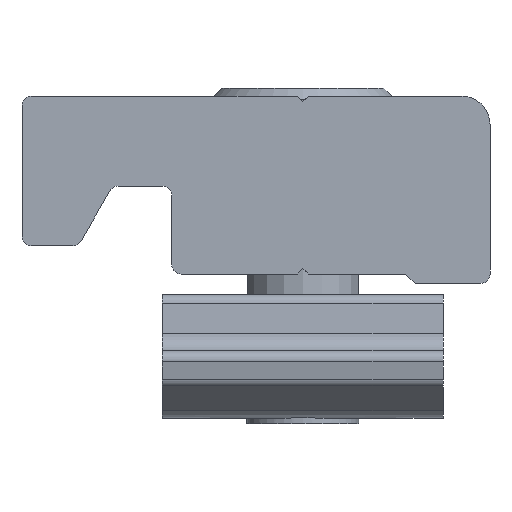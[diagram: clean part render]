
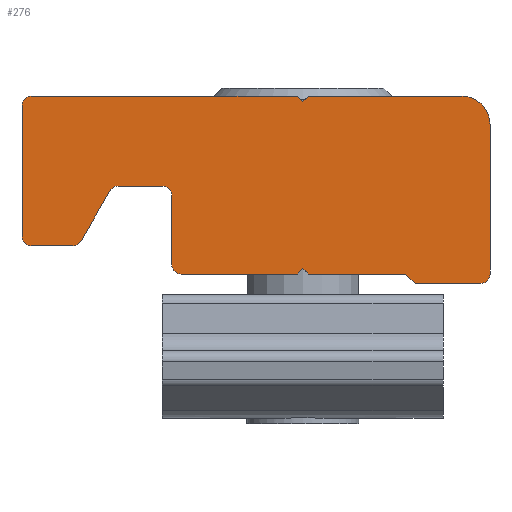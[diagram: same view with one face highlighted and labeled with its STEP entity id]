
A CAD part, front view. The second image highlights one B-rep face of the part: STEP entity #276.
In plain terms, the highlighted planar face has unit normal (0, -1, 0) as drawn and (0, 0, 1) by its records, which use the part's own axes.
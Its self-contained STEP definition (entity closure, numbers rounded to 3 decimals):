
#276=ADVANCED_FACE('',(#528),#529,.T.);
#528=FACE_OUTER_BOUND('',#786,.T.);
#529=PLANE('',#787);
#786=EDGE_LOOP('',(#1275,#1276,#1277,#1278,#1279,#1280,#1281,#1282,#1283,#1284,#1285,#1286,#1287,#1288,#1289,#1290,#1291,#1292,#1293,#1294,#1295,#1296,#1297,#1298));
#787=AXIS2_PLACEMENT_3D('',#1299,#1300,#1301);
#1275=ORIENTED_EDGE('',*,*,#1809,.T.);
#1276=ORIENTED_EDGE('',*,*,#1798,.T.);
#1277=ORIENTED_EDGE('',*,*,#1783,.T.);
#1278=ORIENTED_EDGE('',*,*,#1810,.T.);
#1279=ORIENTED_EDGE('',*,*,#1807,.T.);
#1280=ORIENTED_EDGE('',*,*,#1811,.T.);
#1281=ORIENTED_EDGE('',*,*,#1646,.T.);
#1282=ORIENTED_EDGE('',*,*,#1766,.T.);
#1283=ORIENTED_EDGE('',*,*,#1812,.T.);
#1284=ORIENTED_EDGE('',*,*,#1813,.T.);
#1285=ORIENTED_EDGE('',*,*,#1787,.T.);
#1286=ORIENTED_EDGE('',*,*,#1729,.T.);
#1287=ORIENTED_EDGE('',*,*,#1814,.T.);
#1288=ORIENTED_EDGE('',*,*,#1815,.T.);
#1289=ORIENTED_EDGE('',*,*,#1816,.T.);
#1290=ORIENTED_EDGE('',*,*,#1706,.T.);
#1291=ORIENTED_EDGE('',*,*,#1817,.T.);
#1292=ORIENTED_EDGE('',*,*,#1818,.T.);
#1293=ORIENTED_EDGE('',*,*,#1793,.T.);
#1294=ORIENTED_EDGE('',*,*,#1819,.T.);
#1295=ORIENTED_EDGE('',*,*,#1820,.T.);
#1296=ORIENTED_EDGE('',*,*,#1701,.T.);
#1297=ORIENTED_EDGE('',*,*,#1733,.T.);
#1298=ORIENTED_EDGE('',*,*,#1674,.T.);
#1299=CARTESIAN_POINT('',(729.534,-1179.983,-407.54));
#1300=DIRECTION('',(0.0,0.0,1.0));
#1301=DIRECTION('',(1.0,0.0,0.0));
#1646=EDGE_CURVE('',#1956,#1954,#1957,.T.);
#1674=EDGE_CURVE('',#2002,#2000,#2003,.T.);
#1701=EDGE_CURVE('',#2046,#2044,#2047,.T.);
#1706=EDGE_CURVE('',#2055,#2053,#2056,.T.);
#1729=EDGE_CURVE('',#2095,#2093,#2096,.T.);
#1733=EDGE_CURVE('',#2044,#2002,#2100,.T.);
#1766=EDGE_CURVE('',#1954,#2146,#2148,.T.);
#1783=EDGE_CURVE('',#2169,#2171,#2173,.T.);
#1787=EDGE_CURVE('',#2178,#2095,#2179,.T.);
#1793=EDGE_CURVE('',#2182,#2187,#2189,.T.);
#1798=EDGE_CURVE('',#2195,#2169,#2196,.T.);
#1807=EDGE_CURVE('',#2202,#2207,#2209,.T.);
#1809=EDGE_CURVE('',#2000,#2195,#2211,.T.);
#1810=EDGE_CURVE('',#2171,#2202,#2212,.T.);
#1811=EDGE_CURVE('',#2207,#1956,#2213,.T.);
#1812=EDGE_CURVE('',#2146,#2214,#2215,.T.);
#1813=EDGE_CURVE('',#2214,#2178,#2216,.T.);
#1814=EDGE_CURVE('',#2093,#2217,#2218,.T.);
#1815=EDGE_CURVE('',#2217,#2219,#2220,.T.);
#1816=EDGE_CURVE('',#2219,#2055,#2221,.T.);
#1817=EDGE_CURVE('',#2053,#2222,#2223,.T.);
#1818=EDGE_CURVE('',#2222,#2182,#2224,.T.);
#1819=EDGE_CURVE('',#2187,#2225,#2226,.T.);
#1820=EDGE_CURVE('',#2225,#2046,#2227,.T.);
#1954=VERTEX_POINT('',#2389);
#1956=VERTEX_POINT('',#2392);
#1957=LINE('',#2393,#2394);
#2000=VERTEX_POINT('',#2447);
#2002=VERTEX_POINT('',#2450);
#2003=LINE('',#2451,#2452);
#2044=VERTEX_POINT('',#2512);
#2046=VERTEX_POINT('',#2515);
#2047=LINE('',#2516,#2517);
#2053=VERTEX_POINT('',#2524);
#2055=VERTEX_POINT('',#2527);
#2056=CIRCLE('',#2528,0.5);
#2093=VERTEX_POINT('',#2575);
#2095=VERTEX_POINT('',#2578);
#2096=CIRCLE('',#2579,0.5);
#2100=CIRCLE('',#2584,0.5);
#2146=VERTEX_POINT('',#2654);
#2148=CIRCLE('',#2657,0.5);
#2169=VERTEX_POINT('',#2684);
#2171=VERTEX_POINT('',#2687);
#2173=LINE('',#2690,#2691);
#2178=VERTEX_POINT('',#2697);
#2179=LINE('',#2698,#2699);
#2182=VERTEX_POINT('',#2703);
#2187=VERTEX_POINT('',#2709);
#2189=LINE('',#2712,#2713);
#2195=VERTEX_POINT('',#2720);
#2196=LINE('',#2721,#2722);
#2202=VERTEX_POINT('',#2730);
#2207=VERTEX_POINT('',#2737);
#2209=LINE('',#2740,#2741);
#2211=CIRCLE('',#2743,1.5);
#2212=LINE('',#2744,#2745);
#2213=CIRCLE('',#2746,0.5);
#2214=VERTEX_POINT('',#2747);
#2215=LINE('',#2748,#2749);
#2216=CIRCLE('',#2750,0.5);
#2217=VERTEX_POINT('',#2751);
#2218=LINE('',#2752,#2753);
#2219=VERTEX_POINT('',#2754);
#2220=CIRCLE('',#2755,0.5);
#2221=LINE('',#2756,#2757);
#2222=VERTEX_POINT('',#2758);
#2223=LINE('',#2759,#2760);
#2224=LINE('',#2761,#2762);
#2225=VERTEX_POINT('',#2763);
#2226=LINE('',#2764,#2765);
#2227=LINE('',#2766,#2767);
#2389=CARTESIAN_POINT('',(706.034,-1185.983,-407.54));
#2392=CARTESIAN_POINT('',(706.034,-1178.983,-407.54));
#2393=CARTESIAN_POINT('',(706.034,-1178.983,-407.54));
#2394=VECTOR('',#2923,1.0);
#2447=CARTESIAN_POINT('',(731.034,-1179.983,-407.54));
#2450=CARTESIAN_POINT('',(731.034,-1187.983,-407.54));
#2451=CARTESIAN_POINT('',(731.034,-1187.983,-407.54));
#2452=VECTOR('',#2965,1.0);
#2512=CARTESIAN_POINT('',(730.534,-1188.483,-407.54));
#2515=CARTESIAN_POINT('',(727.034,-1188.483,-407.54));
#2516=CARTESIAN_POINT('',(727.034,-1188.483,-407.54));
#2517=VECTOR('',#2998,1.0);
#2524=CARTESIAN_POINT('',(714.534,-1187.983,-407.54));
#2527=CARTESIAN_POINT('',(714.034,-1187.483,-407.54));
#2528=AXIS2_PLACEMENT_3D('',#3004,#3005,#3006);
#2575=CARTESIAN_POINT('',(711.171,-1183.283,-407.54));
#2578=CARTESIAN_POINT('',(710.738,-1183.533,-407.54));
#2579=AXIS2_PLACEMENT_3D('',#3042,#3043,#3044);
#2584=AXIS2_PLACEMENT_3D('',#3049,#3050,#3051);
#2654=CARTESIAN_POINT('',(706.534,-1186.483,-407.54));
#2657=AXIS2_PLACEMENT_3D('',#3086,#3087,#3088);
#2684=CARTESIAN_POINT('',(721.334,-1178.483,-407.54));
#2687=CARTESIAN_POINT('',(721.034,-1178.783,-407.54));
#2690=CARTESIAN_POINT('',(721.334,-1178.483,-407.54));
#2691=VECTOR('',#3106,1.0);
#2697=CARTESIAN_POINT('',(709.179,-1186.233,-407.54));
#2698=CARTESIAN_POINT('',(709.179,-1186.233,-407.54));
#2699=VECTOR('',#3108,1.0);
#2703=CARTESIAN_POINT('',(721.034,-1187.683,-407.54));
#2709=CARTESIAN_POINT('',(721.334,-1187.983,-407.54));
#2712=CARTESIAN_POINT('',(721.034,-1187.683,-407.54));
#2713=VECTOR('',#3115,1.0);
#2720=CARTESIAN_POINT('',(729.534,-1178.483,-407.54));
#2721=CARTESIAN_POINT('',(729.534,-1178.483,-407.54));
#2722=VECTOR('',#3120,1.0);
#2730=CARTESIAN_POINT('',(720.734,-1178.483,-407.54));
#2737=CARTESIAN_POINT('',(706.534,-1178.483,-407.54));
#2740=CARTESIAN_POINT('',(720.734,-1178.483,-407.54));
#2741=VECTOR('',#3132,1.0);
#2743=AXIS2_PLACEMENT_3D('',#3133,#3134,#3135);
#2744=CARTESIAN_POINT('',(721.034,-1178.783,-407.54));
#2745=VECTOR('',#3136,1.0);
#2746=AXIS2_PLACEMENT_3D('',#3137,#3138,#3139);
#2747=CARTESIAN_POINT('',(708.746,-1186.483,-407.54));
#2748=CARTESIAN_POINT('',(706.534,-1186.483,-407.54));
#2749=VECTOR('',#3140,1.0);
#2750=AXIS2_PLACEMENT_3D('',#3141,#3142,#3143);
#2751=CARTESIAN_POINT('',(713.534,-1183.283,-407.54));
#2752=CARTESIAN_POINT('',(711.171,-1183.283,-407.54));
#2753=VECTOR('',#3144,1.0);
#2754=CARTESIAN_POINT('',(714.034,-1183.783,-407.54));
#2755=AXIS2_PLACEMENT_3D('',#3145,#3146,#3147);
#2756=CARTESIAN_POINT('',(714.034,-1183.783,-407.54));
#2757=VECTOR('',#3148,1.0);
#2758=CARTESIAN_POINT('',(720.734,-1187.983,-407.54));
#2759=CARTESIAN_POINT('',(714.534,-1187.983,-407.54));
#2760=VECTOR('',#3149,1.0);
#2761=CARTESIAN_POINT('',(720.734,-1187.983,-407.54));
#2762=VECTOR('',#3150,1.0);
#2763=CARTESIAN_POINT('',(726.534,-1187.983,-407.54));
#2764=CARTESIAN_POINT('',(721.334,-1187.983,-407.54));
#2765=VECTOR('',#3151,1.0);
#2766=CARTESIAN_POINT('',(726.534,-1187.983,-407.54));
#2767=VECTOR('',#3152,1.0);
#2923=DIRECTION('',(0.0,-1.0,0.0));
#2965=DIRECTION('',(0.0,1.0,0.0));
#2998=DIRECTION('',(1.0,0.0,0.0));
#3004=CARTESIAN_POINT('',(714.534,-1187.483,-407.54));
#3005=DIRECTION('',(0.0,0.0,1.0));
#3006=DIRECTION('',(1.0,0.0,0.0));
#3042=CARTESIAN_POINT('',(711.171,-1183.783,-407.54));
#3043=DIRECTION('',(0.0,0.0,-1.0));
#3044=DIRECTION('',(-1.0,0.0,0.0));
#3049=CARTESIAN_POINT('',(730.534,-1187.983,-407.54));
#3050=DIRECTION('',(0.0,0.0,1.0));
#3051=DIRECTION('',(1.0,0.0,0.0));
#3086=CARTESIAN_POINT('',(706.534,-1185.983,-407.54));
#3087=DIRECTION('',(0.0,0.0,1.0));
#3088=DIRECTION('',(1.0,0.0,0.0));
#3106=DIRECTION('',(-0.707,-0.707,0.0));
#3108=DIRECTION('',(0.5,0.866,0.0));
#3115=DIRECTION('',(0.707,-0.707,0.0));
#3120=DIRECTION('',(-1.0,0.0,0.0));
#3132=DIRECTION('',(-1.0,0.0,0.0));
#3133=CARTESIAN_POINT('',(729.534,-1179.983,-407.54));
#3134=DIRECTION('',(0.0,0.0,1.0));
#3135=DIRECTION('',(1.0,0.0,0.0));
#3136=DIRECTION('',(-0.707,0.707,0.0));
#3137=CARTESIAN_POINT('',(706.534,-1178.983,-407.54));
#3138=DIRECTION('',(0.0,0.0,1.0));
#3139=DIRECTION('',(1.0,0.0,0.0));
#3140=DIRECTION('',(1.0,0.0,0.0));
#3141=CARTESIAN_POINT('',(708.746,-1185.983,-407.54));
#3142=DIRECTION('',(0.0,0.0,1.0));
#3143=DIRECTION('',(1.0,0.0,0.0));
#3144=DIRECTION('',(1.0,0.0,0.0));
#3145=CARTESIAN_POINT('',(713.534,-1183.783,-407.54));
#3146=DIRECTION('',(0.0,0.0,-1.0));
#3147=DIRECTION('',(-1.0,0.0,0.0));
#3148=DIRECTION('',(0.0,-1.0,0.0));
#3149=DIRECTION('',(1.0,0.0,0.0));
#3150=DIRECTION('',(0.707,0.707,0.0));
#3151=DIRECTION('',(1.0,0.0,0.0));
#3152=DIRECTION('',(0.707,-0.707,0.0));
